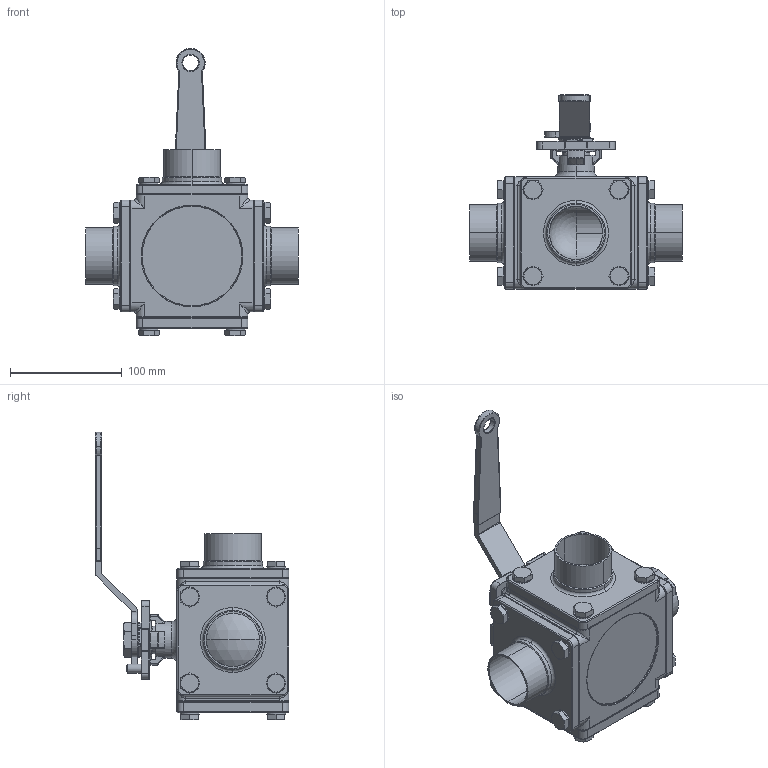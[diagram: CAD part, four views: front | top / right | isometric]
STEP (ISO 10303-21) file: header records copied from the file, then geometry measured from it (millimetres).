
FILE_DESCRIPTION (( 'STEP AP203' ), '1' );
FILE_NAME ('E93WWW-62.0.STEP', '2019-07-02T02:22:02', ( '' ), ( '' ), 'SwSTEP 2.0', 'SolidWorks 2014', '' );
FILE_SCHEMA (( 'CONFIG_CONTROL_DESIGN' ));
Length unit declared in the file: millimetre
Products named in the file (24): 10.BEVEL WASHER1.5-2.0; 20.SEAT BACK2.0; 22.SEAT-L-2.0; 16.BOLT2.0; E93WWW-62.0; 17.LOCKING TAB1.5-2.0; 6.THRUST WASHER1.5-2.0; 5.GASKET2.0; 8.STEM PACKING1.5-2.0; 12.3WAY-NUT1.5-2.0; 7.O-RING1.5-2.0; 22.SEAT-R-2.0; 3.3WAY-BALL-2.0-L; 11.STOP PIN1.5-2.0; 19.3WAY-CAP2.0; 2.3WAY-CAP-W-2.0; 9.RING1.5-2.0; 18.THINNER NUT1.5-2.0; 1.3WAY-BODY2.0; 21.PLAIN WASHER1.5-2.0; 15.SPRING WASHER2.0-2.5; 4.SEAT1-2.0; 14.HANDLE1.5-2.0; 13.STEM1.5-2.0
Assembly tree (58 placements, depth 2):
  E93WWW-62.0
    1.3WAY-BODY2.0
    13.STEM1.5-2.0
    7.O-RING1.5-2.0
    6.THRUST WASHER1.5-2.0
    22.SEAT-L-2.0  x2
    22.SEAT-R-2.0
    4.SEAT1-2.0
    20.SEAT BACK2.0
    19.3WAY-CAP2.0
    5.GASKET2.0  x2
    15.SPRING WASHER2.0-2.5  x16
    16.BOLT2.0  x16
    8.STEM PACKING1.5-2.0
    9.RING1.5-2.0
    10.BEVEL WASHER1.5-2.0  x2
    17.LOCKING TAB1.5-2.0
    18.THINNER NUT1.5-2.0
    21.PLAIN WASHER1.5-2.0
    14.HANDLE1.5-2.0
    12.3WAY-NUT1.5-2.0
    11.STOP PIN1.5-2.0
    3.3WAY-BALL-2.0-L
    2.3WAY-CAP-W-2.0  x3
Bounding box: 190 x 173.1 x 256.7 mm (x, y, z)
Volume: 1419043.9 mm3; surface area: 402376.9 mm2
Topology: 59 solids, 59 shells, 1475 faces, 3320 edges, 1956 vertices
Faces by surface type: cylinder 558, plane 395, cone 234, torus 191, sphere 59, bspline 38
Entity records: 32767 total; most frequent: CARTESIAN_POINT 7005, DIRECTION 5189, ORIENTED_EDGE 4364, AXIS2_PLACEMENT_3D 2200, EDGE_CURVE 2182, VERTEX_POINT 1290, CIRCLE 1214, EDGE_LOOP 1070
